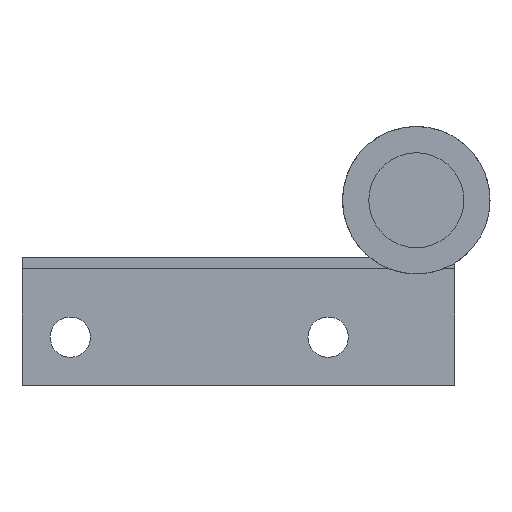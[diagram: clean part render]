
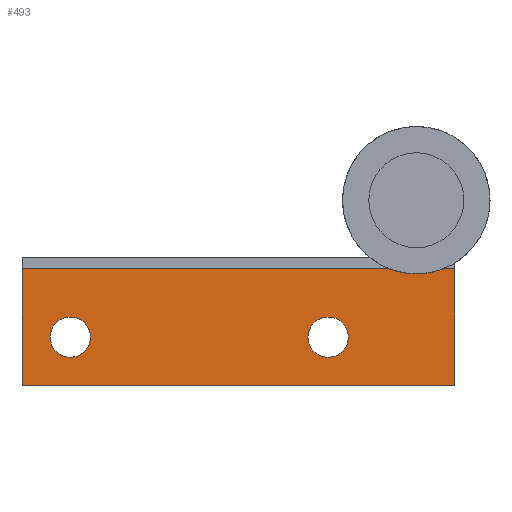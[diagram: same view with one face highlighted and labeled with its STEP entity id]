
A CAD part, front view. The second image highlights one B-rep face of the part: STEP entity #493.
In plain terms, the highlighted planar face has unit normal (0, -1, 0).
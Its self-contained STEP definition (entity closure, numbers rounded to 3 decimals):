
#25 = VERTEX_POINT ( 'NONE', #72 ) ;
#32 = VERTEX_POINT ( 'NONE', #81 ) ;
#33 = VERTEX_POINT ( 'NONE', #69 ) ;
#56 = VERTEX_POINT ( 'NONE', #110 ) ;
#57 = VERTEX_POINT ( 'NONE', #111 ) ;
#60 = VERTEX_POINT ( 'NONE', #114 ) ;
#61 = VERTEX_POINT ( 'NONE', #115 ) ;
#69 = CARTESIAN_POINT ( 'NONE',  ( -40.45, 433.2, -17. ) ) ;
#72 = CARTESIAN_POINT ( 'NONE',  ( -13.45, 433.2, -17. ) ) ;
#73 = VERTEX_POINT ( 'NONE', #116 ) ;
#81 = CARTESIAN_POINT ( 'NONE',  ( -45.45, 433.2, -17. ) ) ;
#110 = CARTESIAN_POINT ( 'NONE',  ( -48.95, 433.2, -23. ) ) ;
#111 = CARTESIAN_POINT ( 'NONE',  ( -48.95, 433.2, -8.5 ) ) ;
#114 = CARTESIAN_POINT ( 'NONE',  ( 4.75, 433.2, -8.5 ) ) ;
#115 = CARTESIAN_POINT ( 'NONE',  ( 4.75, 433.2, -23. ) ) ;
#116 = CARTESIAN_POINT ( 'NONE',  ( -8.45, 433.2, -17. ) ) ;
#210 = PLANE ( 'NONE',  #631 ) ;
#211 = CARTESIAN_POINT ( 'NONE',  ( 9.15, 433.2, -23. ) ) ;
#212 = DIRECTION ( 'NONE',  ( 0., 1., 0. ) ) ;
#213 = DIRECTION ( 'NONE',  ( 1., 0., 0. ) ) ;
#241 = CARTESIAN_POINT ( 'NONE',  ( -48.95, 433.2, -23. ) ) ;
#249 = DIRECTION ( 'NONE',  ( 0., 0., -1. ) ) ;
#265 = CARTESIAN_POINT ( 'NONE',  ( 9.15, 433.2, -23. ) ) ;
#268 = DIRECTION ( 'NONE',  ( -1., 0., 0. ) ) ;
#277 = CARTESIAN_POINT ( 'NONE',  ( 4.75, 433.2, -23. ) ) ;
#280 = DIRECTION ( 'NONE',  ( 0., 0., -1. ) ) ;
#300 = CARTESIAN_POINT ( 'NONE',  ( -42.95, 433.2, -17. ) ) ;
#301 = DIRECTION ( 'NONE',  ( 0., 1., 0. ) ) ;
#302 = DIRECTION ( 'NONE',  ( 1., 0., 0. ) ) ;
#333 = CARTESIAN_POINT ( 'NONE',  ( -10.95, 433.2, -17. ) ) ;
#335 = CARTESIAN_POINT ( 'NONE',  ( -42.95, 433.2, -17. ) ) ;
#336 = DIRECTION ( 'NONE',  ( 0., 1., 0. ) ) ;
#337 = DIRECTION ( 'NONE',  ( 1., 0., 0. ) ) ;
#343 = DIRECTION ( 'NONE',  ( 0., 1., 0. ) ) ;
#344 = DIRECTION ( 'NONE',  ( 1., 0., 0. ) ) ;
#397 = CARTESIAN_POINT ( 'NONE',  ( -10.95, 433.2, -17. ) ) ;
#399 = DIRECTION ( 'NONE',  ( 0., 1., 0. ) ) ;
#400 = DIRECTION ( 'NONE',  ( 1., 0., 0. ) ) ;
#412 = CARTESIAN_POINT ( 'NONE',  ( 9.15, 433.2, -8.5 ) ) ;
#413 = DIRECTION ( 'NONE',  ( -1., 0., 0. ) ) ;
#493 = ADVANCED_FACE ( 'NONE', ( #1021, #1024, #837 ), #210, .F. ) ;
#505 = EDGE_CURVE ( 'NONE', #57, #56, #731, .T. ) ;
#513 = EDGE_CURVE ( 'NONE', #61, #56, #994, .T. ) ;
#519 = EDGE_CURVE ( 'NONE', #60, #61, #832, .T. ) ;
#534 = EDGE_CURVE ( 'NONE', #32, #33, #697, .T. ) ;
#552 = AXIS2_PLACEMENT_3D ( 'NONE', #335, #343, #344 ) ;
#553 = EDGE_CURVE ( 'NONE', #73, #25, #726, .T. ) ;
#556 = EDGE_CURVE ( 'NONE', #33, #32, #996, .T. ) ;
#583 = EDGE_CURVE ( 'NONE', #25, #73, #1025, .T. ) ;
#589 = EDGE_CURVE ( 'NONE', #60, #57, #717, .T. ) ;
#631 = AXIS2_PLACEMENT_3D ( 'NONE', #211, #212, #213 ) ;
#654 = AXIS2_PLACEMENT_3D ( 'NONE', #300, #301, #302 ) ;
#662 = AXIS2_PLACEMENT_3D ( 'NONE', #333, #336, #337 ) ;
#680 = VECTOR ( 'NONE', #280, 1000. ) ;
#697 = CIRCLE ( 'NONE', #654, 2.5 ) ;
#717 = LINE ( 'NONE', #412, #1038 ) ;
#726 = CIRCLE ( 'NONE', #662, 2.5 ) ;
#731 = LINE ( 'NONE', #241, #785 ) ;
#785 = VECTOR ( 'NONE', #249, 1000. ) ;
#803 = ORIENTED_EDGE ( 'NONE', *, *, #556, .T. ) ;
#804 = ORIENTED_EDGE ( 'NONE', *, *, #589, .T. ) ;
#805 = ORIENTED_EDGE ( 'NONE', *, *, #505, .T. ) ;
#806 = ORIENTED_EDGE ( 'NONE', *, *, #513, .F. ) ;
#807 = ORIENTED_EDGE ( 'NONE', *, *, #519, .F. ) ;
#832 = LINE ( 'NONE', #277, #680 ) ;
#837 = FACE_OUTER_BOUND ( 'NONE', #1010, .T. ) ;
#905 = EDGE_LOOP ( 'NONE', ( #921, #922 ) ) ;
#921 = ORIENTED_EDGE ( 'NONE', *, *, #583, .T. ) ;
#922 = ORIENTED_EDGE ( 'NONE', *, *, #553, .T. ) ;
#923 = ORIENTED_EDGE ( 'NONE', *, *, #534, .T. ) ;
#994 = LINE ( 'NONE', #265, #1003 ) ;
#996 = CIRCLE ( 'NONE', #552, 2.5 ) ;
#1003 = VECTOR ( 'NONE', #268, 1000. ) ;
#1010 = EDGE_LOOP ( 'NONE', ( #804, #805, #806, #807 ) ) ;
#1011 = EDGE_LOOP ( 'NONE', ( #923, #803 ) ) ;
#1021 = FACE_BOUND ( 'NONE', #905, .T. ) ;
#1024 = FACE_BOUND ( 'NONE', #1011, .T. ) ;
#1025 = CIRCLE ( 'NONE', #1059, 2.5 ) ;
#1038 = VECTOR ( 'NONE', #413, 1000. ) ;
#1059 = AXIS2_PLACEMENT_3D ( 'NONE', #397, #399, #400 ) ;
